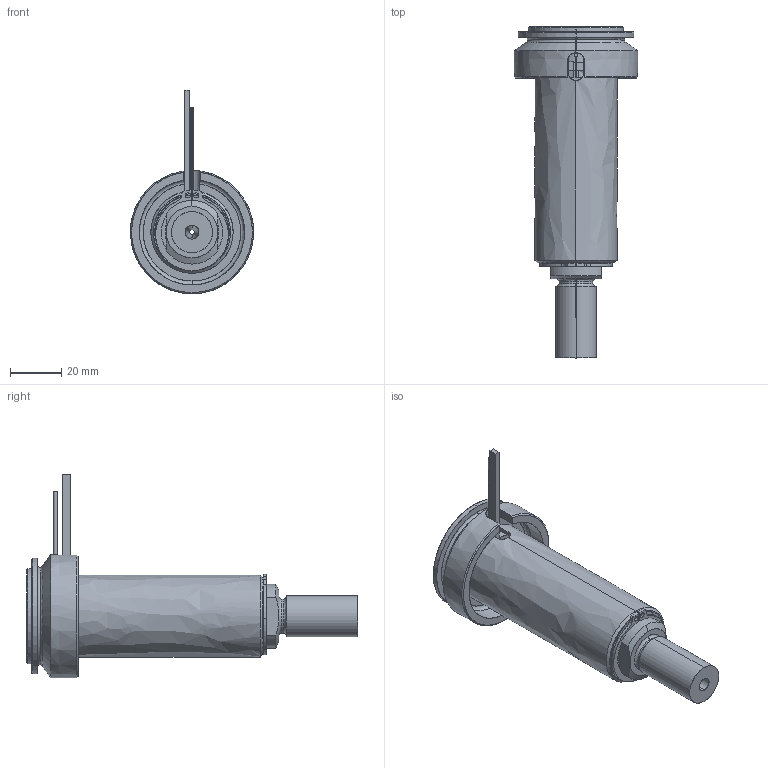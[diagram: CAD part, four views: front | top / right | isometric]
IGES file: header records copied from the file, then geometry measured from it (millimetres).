
Start section: SolidWorks IGES file using analytic representation for surfaces
Global section: file name: C:\Documents and Settings\ws-20\Desktop\TEMPORANEA\UGBE5002-M-A-P-3 [Ød-2.0 P-25 ØC-13].IGS; native system: SolidWorks 2012; preprocessor: SolidWorks 2012; author: ws-20; date: 120306.161719; units: millimetre
Bounding box: 48 x 129.25 x 79.3 mm (x, y, z)
Surface area: 41027.5 mm2 (no closed solid volume)
Topology: 0 solids, 0 shells, 110 faces, 2050 edges, 2050 vertices
Faces by surface type: revolution 63, bspline 47
